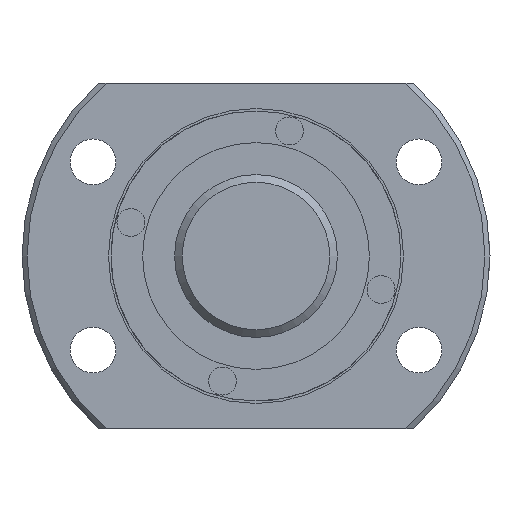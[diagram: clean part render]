
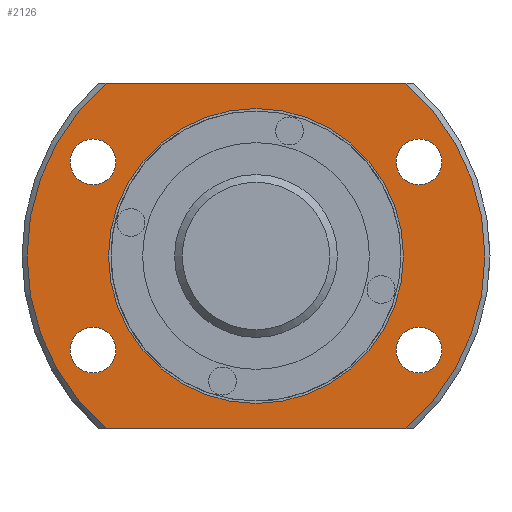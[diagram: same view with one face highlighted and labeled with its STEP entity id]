
A CAD part, left-side view. The second image highlights one B-rep face of the part: STEP entity #2126.
In plain terms, the highlighted planar face has unit normal (-1, 0, 0).
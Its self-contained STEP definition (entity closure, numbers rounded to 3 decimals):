
#81=LINE('',#3591,#201);
#82=LINE('',#3592,#202);
#201=VECTOR('',#2727,1000.);
#202=VECTOR('',#2728,1000.);
#481=ORIENTED_EDGE('',*,*,#1020,.T.);
#482=ORIENTED_EDGE('',*,*,#1021,.F.);
#483=ORIENTED_EDGE('',*,*,#999,.F.);
#484=ORIENTED_EDGE('',*,*,#1022,.F.);
#485=ORIENTED_EDGE('',*,*,#1018,.F.);
#486=ORIENTED_EDGE('',*,*,#1023,.T.);
#487=ORIENTED_EDGE('',*,*,#1024,.T.);
#488=ORIENTED_EDGE('',*,*,#1025,.T.);
#489=ORIENTED_EDGE('',*,*,#1026,.T.);
#999=EDGE_CURVE('',#1272,#1271,#1432,.T.);
#1018=EDGE_CURVE('',#1287,#1288,#1446,.T.);
#1020=EDGE_CURVE('',#1289,#1289,#1447,.T.);
#1021=EDGE_CURVE('',#1271,#1287,#81,.T.);
#1022=EDGE_CURVE('',#1288,#1272,#82,.T.);
#1023=EDGE_CURVE('',#1290,#1290,#1448,.T.);
#1024=EDGE_CURVE('',#1291,#1291,#1449,.T.);
#1025=EDGE_CURVE('',#1292,#1292,#1450,.T.);
#1026=EDGE_CURVE('',#1293,#1293,#1451,.T.);
#1271=VERTEX_POINT('',#3524);
#1272=VERTEX_POINT('',#3529);
#1287=VERTEX_POINT('',#3581);
#1288=VERTEX_POINT('',#3583);
#1289=VERTEX_POINT('',#3590);
#1290=VERTEX_POINT('',#3594);
#1291=VERTEX_POINT('',#3596);
#1292=VERTEX_POINT('',#3598);
#1293=VERTEX_POINT('',#3600);
#1432=CIRCLE('',#2324,45.);
#1446=CIRCLE('',#2347,45.);
#1447=CIRCLE('',#2349,29.);
#1448=CIRCLE('',#2350,4.5);
#1449=CIRCLE('',#2351,4.5);
#1450=CIRCLE('',#2352,4.5);
#1451=CIRCLE('',#2353,4.5);
#1579=EDGE_LOOP('',(#481));
#1580=EDGE_LOOP('',(#482,#483,#484,#485));
#1581=EDGE_LOOP('',(#486));
#1582=EDGE_LOOP('',(#487));
#1583=EDGE_LOOP('',(#488));
#1584=EDGE_LOOP('',(#489));
#1813=FACE_BOUND('',#1579,.T.);
#1814=FACE_BOUND('',#1580,.T.);
#1815=FACE_BOUND('',#1581,.T.);
#1816=FACE_BOUND('',#1582,.T.);
#1817=FACE_BOUND('',#1583,.T.);
#1818=FACE_BOUND('',#1584,.T.);
#2013=PLANE('',#2348);
#2126=ADVANCED_FACE('',(#1813,#1814,#1815,#1816,#1817,#1818),#2013,.T.);
#2324=AXIS2_PLACEMENT_3D('',#3530,#2673,#2674);
#2347=AXIS2_PLACEMENT_3D('',#3582,#2721,#2722);
#2348=AXIS2_PLACEMENT_3D('',#3588,#2723,#2724);
#2349=AXIS2_PLACEMENT_3D('',#3589,#2725,#2726);
#2350=AXIS2_PLACEMENT_3D('',#3593,#2729,#2730);
#2351=AXIS2_PLACEMENT_3D('',#3595,#2731,#2732);
#2352=AXIS2_PLACEMENT_3D('',#3597,#2733,#2734);
#2353=AXIS2_PLACEMENT_3D('',#3599,#2735,#2736);
#2673=DIRECTION('',(1.,0.,0.));
#2674=DIRECTION('',(0.,0.,-1.));
#2721=DIRECTION('',(1.,0.,0.));
#2722=DIRECTION('',(0.,0.,-1.));
#2723=DIRECTION('',(-1.,0.,0.));
#2724=DIRECTION('',(0.,0.,1.));
#2725=DIRECTION('',(1.,0.,0.));
#2726=DIRECTION('',(0.,0.,-1.));
#2727=DIRECTION('',(0.,1.,0.));
#2728=DIRECTION('',(0.,-1.,0.));
#2729=DIRECTION('',(1.,0.,0.));
#2730=DIRECTION('',(0.,0.,-1.));
#2731=DIRECTION('',(1.,0.,0.));
#2732=DIRECTION('',(0.,0.,-1.));
#2733=DIRECTION('',(1.,0.,0.));
#2734=DIRECTION('',(0.,0.,-1.));
#2735=DIRECTION('',(1.,0.,0.));
#2736=DIRECTION('',(0.,0.,-1.));
#3524=CARTESIAN_POINT('',(10.,-29.479,-34.));
#3529=CARTESIAN_POINT('',(10.,-29.479,34.));
#3530=CARTESIAN_POINT('',(10.,0.,0.));
#3581=CARTESIAN_POINT('',(10.,29.479,-34.));
#3582=CARTESIAN_POINT('',(10.,0.,0.));
#3583=CARTESIAN_POINT('',(10.,29.479,34.));
#3588=CARTESIAN_POINT('',(10.,45.,0.));
#3589=CARTESIAN_POINT('',(10.,0.,0.));
#3590=CARTESIAN_POINT('',(10.,0.,-29.));
#3591=CARTESIAN_POINT('',(10.,45.,-34.));
#3592=CARTESIAN_POINT('',(10.,45.,34.));
#3593=CARTESIAN_POINT('',(10.,32.043,-18.5));
#3594=CARTESIAN_POINT('',(10.,32.043,-23.));
#3595=CARTESIAN_POINT('',(10.,-32.043,18.5));
#3596=CARTESIAN_POINT('',(10.,-32.043,14.));
#3597=CARTESIAN_POINT('',(10.,-32.043,-18.5));
#3598=CARTESIAN_POINT('',(10.,-32.043,-23.));
#3599=CARTESIAN_POINT('',(10.,32.043,18.5));
#3600=CARTESIAN_POINT('',(10.,32.043,14.));
